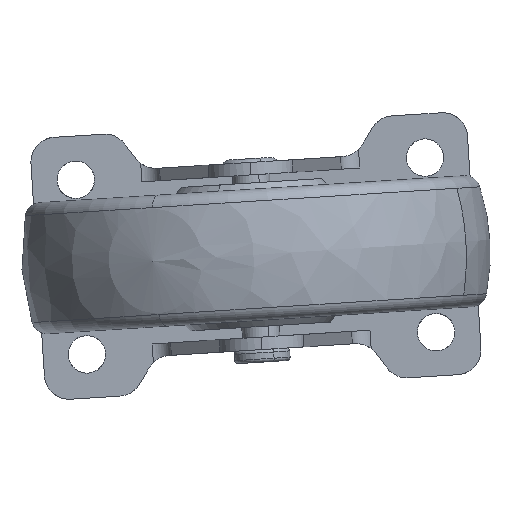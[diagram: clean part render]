
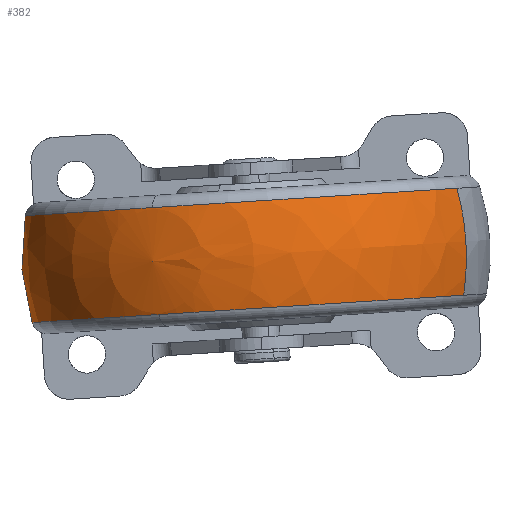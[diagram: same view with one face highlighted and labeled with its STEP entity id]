
A CAD part, front view. The second image highlights one B-rep face of the part: STEP entity #382.
In plain terms, the highlighted spherical face has radius 37.5 mm.
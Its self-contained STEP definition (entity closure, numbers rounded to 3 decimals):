
#132 = EDGE_CURVE ( 'NONE', #4340, #2000, #830, .T. ) ;
#179 = VERTEX_POINT ( 'NONE', #3638 ) ;
#376 = VERTEX_POINT ( 'NONE', #4123 ) ;
#382 = ADVANCED_FACE ( 'NONE', ( #2254 ), #1434, .T. ) ;
#431 = CARTESIAN_POINT ( 'NONE',  ( 7.603, 0., 0. ) ) ;
#442 = EDGE_CURVE ( 'NONE', #3783, #179, #2347, .T. ) ;
#479 = CARTESIAN_POINT ( 'NONE',  ( -0.968, 0., 0. ) ) ;
#501 = AXIS2_PLACEMENT_3D ( 'NONE', #431, #1171, #3613 ) ;
#525 = DIRECTION ( 'NONE',  ( 0., 0., 1. ) ) ;
#572 = DIRECTION ( 'NONE',  ( -1., 0., 0. ) ) ;
#605 = CARTESIAN_POINT ( 'NONE',  ( 7.603, 36.507, 0. ) ) ;
#622 = DIRECTION ( 'NONE',  ( 0., 0., 1. ) ) ;
#706 = CIRCLE ( 'NONE', #1133, 36.507 ) ;
#732 = AXIS2_PLACEMENT_3D ( 'NONE', #3528, #5159, #1513 ) ;
#760 = DIRECTION ( 'NONE',  ( 0., 0., 1. ) ) ;
#782 = AXIS2_PLACEMENT_3D ( 'NONE', #479, #4604, #4981 ) ;
#793 = CARTESIAN_POINT ( 'NONE',  ( 7.603, 0., 0. ) ) ;
#798 = EDGE_CURVE ( 'NONE', #4340, #3783, #1718, .T. ) ;
#830 = CIRCLE ( 'NONE', #501, 36.507 ) ;
#1082 = CARTESIAN_POINT ( 'NONE',  ( -0.968, 0., 0. ) ) ;
#1107 = CARTESIAN_POINT ( 'NONE',  ( 7.603, 0., -36.507 ) ) ;
#1133 = AXIS2_PLACEMENT_3D ( 'NONE', #793, #4388, #760 ) ;
#1171 = DIRECTION ( 'NONE',  ( -1., 0., 0. ) ) ;
#1286 = VERTEX_POINT ( 'NONE', #1782 ) ;
#1399 = ORIENTED_EDGE ( 'NONE', *, *, #4555, .T. ) ;
#1434 = SPHERICAL_SURFACE ( 'NONE', #3890, 37.5 ) ;
#1513 = DIRECTION ( 'NONE',  ( 0., 0., 1. ) ) ;
#1718 = CIRCLE ( 'NONE', #3079, 37.5 ) ;
#1782 = CARTESIAN_POINT ( 'NONE',  ( -9.54, -36.507, 0. ) ) ;
#2000 = VERTEX_POINT ( 'NONE', #1107 ) ;
#2254 = FACE_OUTER_BOUND ( 'NONE', #4688, .T. ) ;
#2347 = CIRCLE ( 'NONE', #732, 36.507 ) ;
#2402 = ORIENTED_EDGE ( 'NONE', *, *, #132, .T. ) ;
#2555 = ORIENTED_EDGE ( 'NONE', *, *, #442, .F. ) ;
#2628 = EDGE_CURVE ( 'NONE', #179, #1286, #3420, .T. ) ;
#3079 = AXIS2_PLACEMENT_3D ( 'NONE', #4161, #525, #3314 ) ;
#3145 = ORIENTED_EDGE ( 'NONE', *, *, #4679, .T. ) ;
#3238 = CARTESIAN_POINT ( 'NONE',  ( -9.54, 36.507, 0. ) ) ;
#3314 = DIRECTION ( 'NONE',  ( 1., 0., 0. ) ) ;
#3420 = CIRCLE ( 'NONE', #4790, 36.507 ) ;
#3489 = ORIENTED_EDGE ( 'NONE', *, *, #798, .F. ) ;
#3528 = CARTESIAN_POINT ( 'NONE',  ( -9.54, 0., 0. ) ) ;
#3613 = DIRECTION ( 'NONE',  ( 0., 0., 1. ) ) ;
#3638 = CARTESIAN_POINT ( 'NONE',  ( -9.54, 0., -36.507 ) ) ;
#3783 = VERTEX_POINT ( 'NONE', #3238 ) ;
#3786 = CARTESIAN_POINT ( 'NONE',  ( -9.54, 0., 0. ) ) ;
#3890 = AXIS2_PLACEMENT_3D ( 'NONE', #1082, #4743, #4252 ) ;
#4123 = CARTESIAN_POINT ( 'NONE',  ( 7.603, -36.507, 0. ) ) ;
#4161 = CARTESIAN_POINT ( 'NONE',  ( -0.968, 0., 0. ) ) ;
#4252 = DIRECTION ( 'NONE',  ( 0., 1., 0. ) ) ;
#4340 = VERTEX_POINT ( 'NONE', #605 ) ;
#4388 = DIRECTION ( 'NONE',  ( -1., 0., 0. ) ) ;
#4555 = EDGE_CURVE ( 'NONE', #2000, #376, #706, .T. ) ;
#4604 = DIRECTION ( 'NONE',  ( 0., 0., -1. ) ) ;
#4679 = EDGE_CURVE ( 'NONE', #376, #1286, #4709, .T. ) ;
#4688 = EDGE_LOOP ( 'NONE', ( #1399, #3145, #4914, #2555, #3489, #2402 ) ) ;
#4709 = CIRCLE ( 'NONE', #782, 37.5 ) ;
#4743 = DIRECTION ( 'NONE',  ( 0., 0., -1. ) ) ;
#4790 = AXIS2_PLACEMENT_3D ( 'NONE', #3786, #572, #622 ) ;
#4914 = ORIENTED_EDGE ( 'NONE', *, *, #2628, .F. ) ;
#4981 = DIRECTION ( 'NONE',  ( 0., 1., 0. ) ) ;
#5159 = DIRECTION ( 'NONE',  ( -1., 0., 0. ) ) ;
